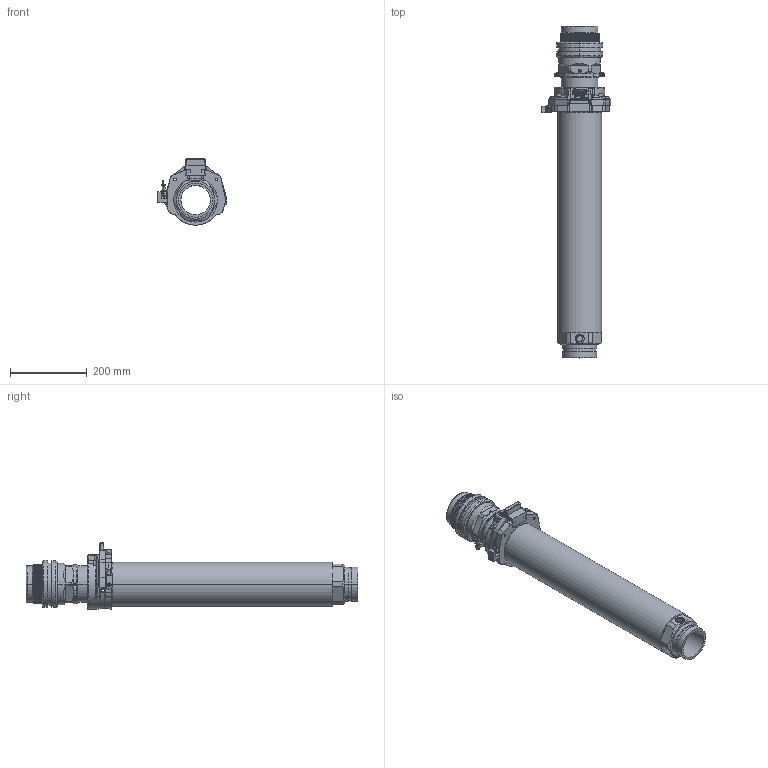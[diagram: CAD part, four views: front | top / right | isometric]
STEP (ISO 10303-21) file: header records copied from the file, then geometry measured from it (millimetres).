
FILE_DESCRIPTION (( 'STEP AP203' ), '1' );
FILE_NAME ('XG18VL-XL_Retracted.STEP', '2014-07-03T14:53:53', ( '' ), ( '' ), 'SwSTEP 2.0', 'SolidWorks 2014', '' );
FILE_SCHEMA (( 'CONFIG_CONTROL_DESIGN' ));
Length unit declared in the file: inch
Products named in the file (1): XG18VL-XL_Retracted
Bounding box: 179.79 x 863.32 x 172.28 mm (x, y, z)
Surface area: 617748.3 mm2 (no closed solid volume)
Topology: 0 solids, 94 shells, 781 faces, 8155 edges, 7241 vertices
Faces by surface type: plane 368, cylinder 251, torus 51, bspline 46, cone 45, sphere 20
Entity records: 102316 total; most frequent: CARTESIAN_POINT 53085, ORIENTED_EDGE 9631, EDGE_CURVE 8143, DIRECTION 7381, VERTEX_POINT 7235, B_SPLINE_CURVE_WITH_KNOTS 3662, VECTOR 2877, LINE 2877
